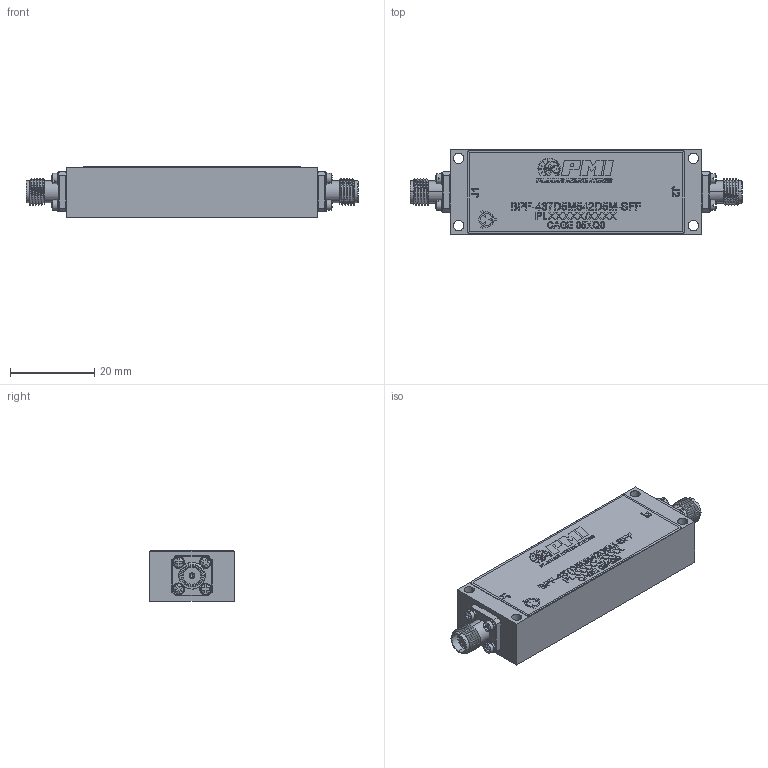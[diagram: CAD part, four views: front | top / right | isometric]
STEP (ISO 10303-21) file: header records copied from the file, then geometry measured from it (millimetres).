
FILE_DESCRIPTION (( 'STEP AP214' ), '1' );
FILE_NAME ('BPF-437D5M542D5M-SFF.STEP', '2026-09-23T14:28:34', ( '' ), ( '' ), 'SwSTEP 2.0', 'SolidWorks 2025', '' );
FILE_SCHEMA (( 'AUTOMOTIVE_DESIGN' ));
Length unit declared in the file: millimetre
Products named in the file (1): BPF-437D5M542D5M-SFF
Bounding box: 78.99 x 20.07 x 12.06 mm (x, y, z)
Volume: 14982.8 mm3; surface area: 8238.1 mm2
Topology: 20 solids, 20 shells, 652 faces, 2198 edges, 1712 vertices
Faces by surface type: plane 294, cylinder 206, torus 92, sphere 32, cone 24, bspline 4
Entity records: 33489 total; most frequent: CARTESIAN_POINT 9151, ORIENTED_EDGE 4380, DIRECTION 3955, EDGE_CURVE 2190, VERTEX_POINT 1712, AXIS2_PLACEMENT_3D 1430, LINE 1095, VECTOR 1095
